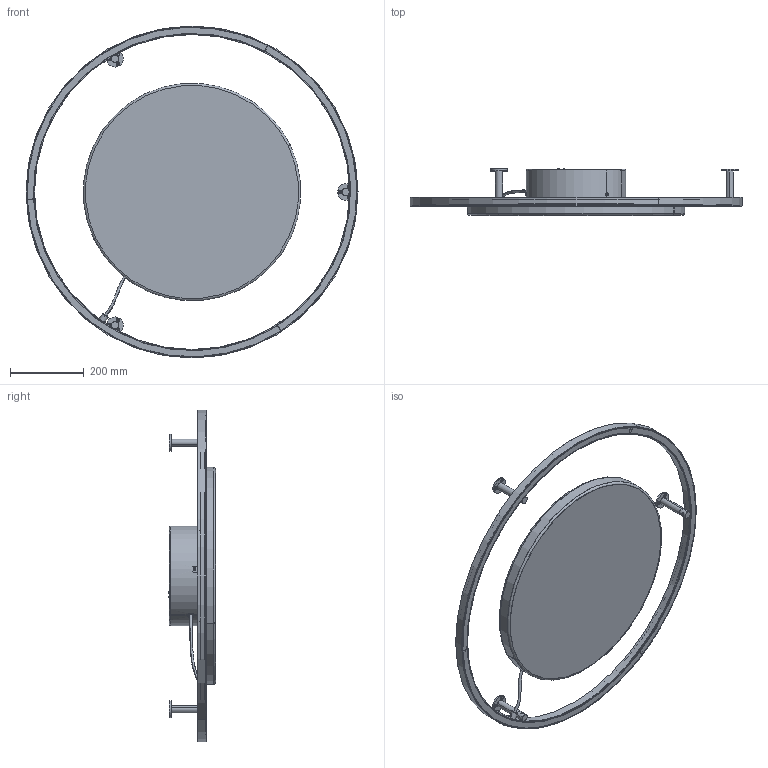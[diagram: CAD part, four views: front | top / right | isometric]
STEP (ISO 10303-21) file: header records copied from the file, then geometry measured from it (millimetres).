
FILE_DESCRIPTION (( 'STEP AP203' ), '1' );
FILE_NAME ('PLULA1-090-SOUND ABSORBING.STEP', '2023-09-25T15:54:56', ( '' ), ( '' ), 'SwSTEP 2.0', 'SolidWorks 2023', '' );
FILE_SCHEMA (( 'CONFIG_CONTROL_DESIGN' ));
Length unit declared in the file: millimetre
Products named in the file (20): WSF0GNS0135NI3034; socket countersunk head screw_iso_ISO 10642 - M8 x 20 --- 20N; ULIGHT090_P-PL; WSCM2A0043-0700-00; Piedino_Plafone; PLULA1-090-SOUND ABSORBING; ISO7046_M4_H12; WSCM2D0018-0700-00; WSMCTFA10C015-0141; WSCM2A0042-0700-00; WSCM2A0022-0700-00; piedino_poliuretano_Ø30; WSASS-000000016-32; socket countersunk head screw_iso_WSMCVII-04A20-0141; PANNELLI TAPPEZZIERE DEFINITIVI_PANULA0593540AV ; WS0T21024---------; WSCP2F0006-0403-00; TANG YAO-7727-P215 + RIV TESSILE 33- PER ANELLI; WSCM2A0030-0700-01; Pannelli Definitivi Tappezziere_PANNELLO PLULA 90 Ø590mm H40-45mm
Assembly tree (31 placements, depth 4):
  PLULA1-090-SOUND ABSORBING
    ULIGHT090_P-PL
      WSCM2D0018-0700-00
      WSCM2A0022-0700-00
      WS0T21024---------  x3
      Piedino_Plafone  x3
        WSCM2A0030-0700-01
        socket countersunk head screw_iso_ISO 10642 - M8 x 20 --- 20N
        WSCM2A0043-0700-00
        WSMCTFA10C015-0141
        WSCM2A0042-0700-00
        socket countersunk head screw_iso_WSMCVII-04A20-0141
      WSCP2F0006-0403-00  x3
      WSASS-000000016-32
    Pannelli Definitivi Tappezziere_PANNELLO PLULA 90 Ø590mm H40-45mm
      PANNELLI TAPPEZZIERE DEFINITIVI_PANULA0593540AV 
      WSF0GNS0135NI3034  x3
      ISO7046_M4_H12  x3
      piedino_poliuretano_Ø30  x3
    TANG YAO-7727-P215 + RIV TESSILE 33- PER ANELLI
Bounding box: 900 x 127.5 x 900 mm (x, y, z)
Volume: 11811621.4 mm3; surface area: 3445734.5 mm2
Topology: 64 solids, 64 shells, 3740 faces, 10069 edges, 6365 vertices
Faces by surface type: plane 1660, cylinder 1100, cone 391, bspline 388, torus 185, sphere 16
Entity records: 137752 total; most frequent: CARTESIAN_POINT 56442, ORIENTED_EDGE 18030, DIRECTION 14150, EDGE_CURVE 9015, VERTEX_POINT 5805, VECTOR 4738, LINE 4738, AXIS2_PLACEMENT_3D 4706
